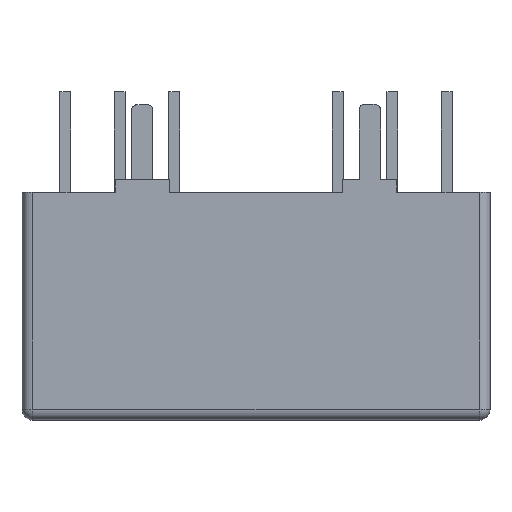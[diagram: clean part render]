
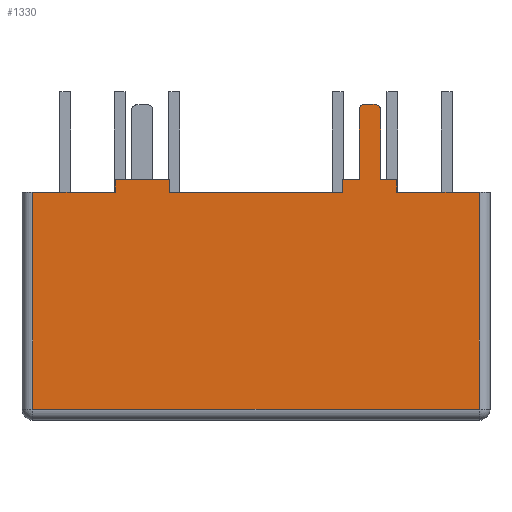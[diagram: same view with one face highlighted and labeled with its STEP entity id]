
A CAD part, top view. The second image highlights one B-rep face of the part: STEP entity #1330.
In plain terms, the highlighted planar face has unit normal (0, 0, 1).
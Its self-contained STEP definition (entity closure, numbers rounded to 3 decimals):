
#44=CIRCLE('',#1428,0.25);
#45=CIRCLE('',#1429,0.25);
#156=ORIENTED_EDGE('',*,*,#533,.F.);
#157=ORIENTED_EDGE('',*,*,#534,.T.);
#158=ORIENTED_EDGE('',*,*,#535,.T.);
#159=ORIENTED_EDGE('',*,*,#510,.F.);
#160=ORIENTED_EDGE('',*,*,#536,.F.);
#161=ORIENTED_EDGE('',*,*,#467,.F.);
#162=ORIENTED_EDGE('',*,*,#537,.F.);
#163=ORIENTED_EDGE('',*,*,#523,.F.);
#164=ORIENTED_EDGE('',*,*,#538,.F.);
#165=ORIENTED_EDGE('',*,*,#463,.F.);
#166=ORIENTED_EDGE('',*,*,#539,.T.);
#167=ORIENTED_EDGE('',*,*,#540,.T.);
#168=ORIENTED_EDGE('',*,*,#541,.T.);
#169=ORIENTED_EDGE('',*,*,#471,.F.);
#170=ORIENTED_EDGE('',*,*,#542,.F.);
#171=ORIENTED_EDGE('',*,*,#514,.F.);
#172=ORIENTED_EDGE('',*,*,#543,.F.);
#173=ORIENTED_EDGE('',*,*,#544,.T.);
#463=EDGE_CURVE('',#655,#656,#777,.T.);
#467=EDGE_CURVE('',#659,#660,#781,.T.);
#471=EDGE_CURVE('',#663,#664,#785,.T.);
#510=EDGE_CURVE('',#700,#701,#818,.T.);
#514=EDGE_CURVE('',#702,#703,#822,.T.);
#523=EDGE_CURVE('',#709,#710,#831,.T.);
#533=EDGE_CURVE('',#718,#719,#841,.T.);
#534=EDGE_CURVE('',#718,#720,#44,.F.);
#535=EDGE_CURVE('',#720,#701,#842,.T.);
#536=EDGE_CURVE('',#660,#700,#843,.T.);
#537=EDGE_CURVE('',#710,#659,#844,.T.);
#538=EDGE_CURVE('',#656,#709,#845,.T.);
#539=EDGE_CURVE('',#655,#721,#846,.T.);
#540=EDGE_CURVE('',#721,#722,#847,.T.);
#541=EDGE_CURVE('',#722,#664,#848,.F.);
#542=EDGE_CURVE('',#703,#663,#849,.T.);
#543=EDGE_CURVE('',#723,#702,#850,.T.);
#544=EDGE_CURVE('',#723,#719,#45,.F.);
#655=VERTEX_POINT('',#1919);
#656=VERTEX_POINT('',#1921);
#659=VERTEX_POINT('',#1927);
#660=VERTEX_POINT('',#1929);
#663=VERTEX_POINT('',#1935);
#664=VERTEX_POINT('',#1937);
#700=VERTEX_POINT('',#2015);
#701=VERTEX_POINT('',#2016);
#702=VERTEX_POINT('',#2021);
#703=VERTEX_POINT('',#2023);
#709=VERTEX_POINT('',#2040);
#710=VERTEX_POINT('',#2042);
#718=VERTEX_POINT('',#2063);
#719=VERTEX_POINT('',#2064);
#720=VERTEX_POINT('',#2066);
#721=VERTEX_POINT('',#2072);
#722=VERTEX_POINT('',#2074);
#723=VERTEX_POINT('',#2078);
#777=LINE('',#1920,#945);
#781=LINE('',#1928,#949);
#785=LINE('',#1936,#953);
#818=LINE('',#2014,#986);
#822=LINE('',#2022,#990);
#831=LINE('',#2041,#999);
#841=LINE('',#2062,#1009);
#842=LINE('',#2067,#1010);
#843=LINE('',#2068,#1011);
#844=LINE('',#2069,#1012);
#845=LINE('',#2070,#1013);
#846=LINE('',#2071,#1014);
#847=LINE('',#2073,#1015);
#848=LINE('',#2075,#1016);
#849=LINE('',#2076,#1017);
#850=LINE('',#2077,#1018);
#945=VECTOR('',#1534,1000.);
#949=VECTOR('',#1538,1000.);
#953=VECTOR('',#1542,1000.);
#986=VECTOR('',#1593,1000.);
#990=VECTOR('',#1599,1000.);
#999=VECTOR('',#1614,1000.);
#1009=VECTOR('',#1630,1000.);
#1010=VECTOR('',#1633,1000.);
#1011=VECTOR('',#1634,1000.);
#1012=VECTOR('',#1635,1000.);
#1013=VECTOR('',#1636,1000.);
#1014=VECTOR('',#1637,1000.);
#1015=VECTOR('',#1638,1000.);
#1016=VECTOR('',#1639,1000.);
#1017=VECTOR('',#1640,1000.);
#1018=VECTOR('',#1641,1000.);
#1112=EDGE_LOOP('',(#156,#157,#158,#159,#160,#161,#162,#163,#164,#165,#166,
#167,#168,#169,#170,#171,#172,#173));
#1194=FACE_BOUND('',#1112,.T.);
#1270=PLANE('',#1427);
#1330=ADVANCED_FACE('',(#1194),#1270,.F.);
#1427=AXIS2_PLACEMENT_3D('',#2061,#1628,#1629);
#1428=AXIS2_PLACEMENT_3D('',#2065,#1631,#1632);
#1429=AXIS2_PLACEMENT_3D('',#2079,#1642,#1643);
#1534=DIRECTION('',(1.,0.,0.));
#1538=DIRECTION('',(1.,0.,0.));
#1542=DIRECTION('',(1.,0.,0.));
#1593=DIRECTION('',(1.,0.,0.));
#1599=DIRECTION('',(1.,0.,0.));
#1614=DIRECTION('',(1.,0.,0.));
#1628=DIRECTION('',(0.,0.,-1.));
#1629=DIRECTION('',(-1.,0.,0.));
#1630=DIRECTION('',(1.,0.,0.));
#1631=DIRECTION('',(0.,0.,-1.));
#1632=DIRECTION('',(-1.,0.,0.));
#1633=DIRECTION('',(0.,-1.,0.));
#1634=DIRECTION('',(0.,1.,0.));
#1635=DIRECTION('',(0.,-1.,0.));
#1636=DIRECTION('',(0.,1.,0.));
#1637=DIRECTION('',(0.,-1.,0.));
#1638=DIRECTION('',(1.,0.,0.));
#1639=DIRECTION('',(0.,-1.,0.));
#1640=DIRECTION('',(0.,-1.,0.));
#1641=DIRECTION('',(0.,-1.,0.));
#1642=DIRECTION('',(0.,0.,-1.));
#1643=DIRECTION('',(-1.,0.,0.));
#1919=CARTESIAN_POINT('',(-10.4,10.6,4.8));
#1920=CARTESIAN_POINT('',(-10.9,10.6,4.8));
#1921=CARTESIAN_POINT('',(-6.55,10.6,4.8));
#1927=CARTESIAN_POINT('',(-4.05,10.6,4.8));
#1928=CARTESIAN_POINT('',(-4.05,10.6,4.8));
#1929=CARTESIAN_POINT('',(4.05,10.6,4.8));
#1935=CARTESIAN_POINT('',(6.55,10.6,4.8));
#1936=CARTESIAN_POINT('',(10.9,10.6,4.8));
#1937=CARTESIAN_POINT('',(10.4,10.6,4.8));
#2014=CARTESIAN_POINT('',(-10.9,11.2,4.8));
#2015=CARTESIAN_POINT('',(4.05,11.2,4.8));
#2016=CARTESIAN_POINT('',(4.8,11.2,4.8));
#2021=CARTESIAN_POINT('',(5.8,11.2,4.8));
#2022=CARTESIAN_POINT('',(-10.9,11.2,4.8));
#2023=CARTESIAN_POINT('',(6.55,11.2,4.8));
#2040=CARTESIAN_POINT('',(-6.55,11.2,4.8));
#2041=CARTESIAN_POINT('',(-10.9,11.2,4.8));
#2042=CARTESIAN_POINT('',(-4.05,11.2,4.8));
#2061=CARTESIAN_POINT('',(-10.9,11.2,4.8));
#2062=CARTESIAN_POINT('',(4.8,14.7,4.8));
#2063=CARTESIAN_POINT('',(5.05,14.7,4.8));
#2064=CARTESIAN_POINT('',(5.55,14.7,4.8));
#2065=CARTESIAN_POINT('',(5.05,14.45,4.8));
#2066=CARTESIAN_POINT('',(4.8,14.45,4.8));
#2067=CARTESIAN_POINT('',(4.8,14.7,4.8));
#2068=CARTESIAN_POINT('',(4.05,11.2,4.8));
#2069=CARTESIAN_POINT('',(-4.05,11.2,4.8));
#2070=CARTESIAN_POINT('',(-6.55,11.2,4.8));
#2071=CARTESIAN_POINT('',(-10.4,11.2,4.8));
#2072=CARTESIAN_POINT('',(-10.4,0.5,4.8));
#2073=CARTESIAN_POINT('',(-10.9,0.5,4.8));
#2074=CARTESIAN_POINT('',(10.4,0.5,4.8));
#2075=CARTESIAN_POINT('',(10.4,11.2,4.8));
#2076=CARTESIAN_POINT('',(6.55,11.2,4.8));
#2077=CARTESIAN_POINT('',(5.8,14.7,4.8));
#2078=CARTESIAN_POINT('',(5.8,14.45,4.8));
#2079=CARTESIAN_POINT('',(5.55,14.45,4.8));
